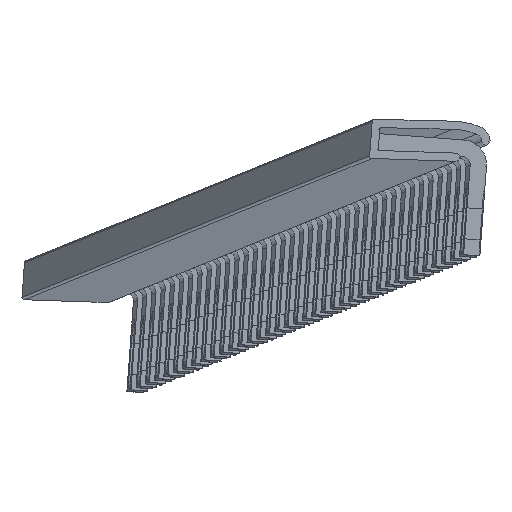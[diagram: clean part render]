
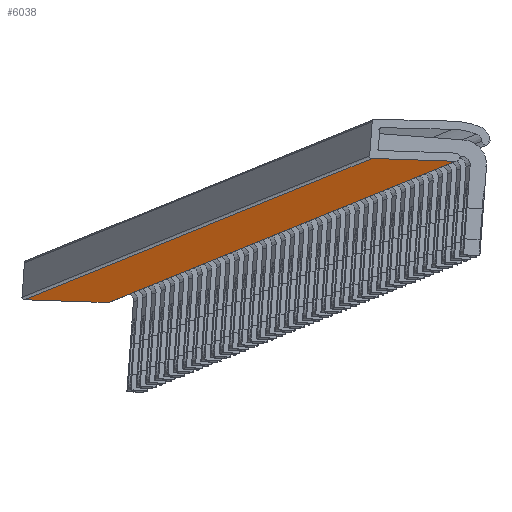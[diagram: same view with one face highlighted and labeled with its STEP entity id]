
A CAD part, top view. The second image highlights one B-rep face of the part: STEP entity #6038.
In plain terms, the highlighted planar face has unit normal (-0.033, -0.999, 0.017).
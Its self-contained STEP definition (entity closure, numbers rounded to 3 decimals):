
#1271 = DIRECTION ( 'NONE',  ( 0.999, -0.034, -0.041 ) ) ;
#1272 = VECTOR ( 'NONE', #1271, 1000. ) ;
#1273 = CARTESIAN_POINT ( 'NONE',  ( -159.832, -83.438, -25.062 ) ) ;
#1274 = LINE ( 'NONE', #1273, #1272 ) ;
#1280 = DIRECTION ( 'NONE',  ( -0.042, -0.015, -0.999 ) ) ;
#1281 = VECTOR ( 'NONE', #1280, 1000. ) ;
#1282 = CARTESIAN_POINT ( 'NONE',  ( -107.06, -68.273, 989.505 ) ) ;
#1283 = LINE ( 'NONE', #1282, #1281 ) ;
#1320 = DIRECTION ( 'NONE',  ( 0.999, -0.034, -0.041 ) ) ;
#1321 = VECTOR ( 'NONE', #1320, 1000. ) ;
#1322 = CARTESIAN_POINT ( 'NONE',  ( -117.302, -67.925, 989.929 ) ) ;
#1323 = LINE ( 'NONE', #1322, #1321 ) ;
#1331 = FACE_OUTER_BOUND ( 'NONE', #6030, .T. ) ;
#1332 = CARTESIAN_POINT ( 'NONE',  ( -159.832, -83.438, -25.062 ) ) ;
#1362 = CARTESIAN_POINT ( 'NONE',  ( -117.302, -67.925, 989.929 ) ) ;
#1363 = DIRECTION ( 'NONE',  ( -0.042, -0.015, -0.999 ) ) ;
#1364 = VECTOR ( 'NONE', #1363, 1000. ) ;
#1366 = CARTESIAN_POINT ( 'NONE',  ( -117.302, -67.925, 989.929 ) ) ;
#1367 = LINE ( 'NONE', #1366, #1364 ) ;
#1383 = CARTESIAN_POINT ( 'NONE',  ( -149.59, -83.786, -25.486 ) ) ;
#1422 = DIRECTION ( 'NONE',  ( -0.999, 0.034, 0.041 ) ) ;
#1423 = DIRECTION ( 'NONE',  ( 0.033, 0.999, -0.017 ) ) ;
#1424 = CARTESIAN_POINT ( 'NONE',  ( -117.302, -67.925, 989.929 ) ) ;
#1425 = AXIS2_PLACEMENT_3D ( 'NONE', #1424, #1423, #1422 ) ;
#1426 = PLANE ( 'NONE',  #1425 ) ;
#2606 = CARTESIAN_POINT ( 'NONE',  ( -107.06, -68.273, 989.505 ) ) ;
#5984 = VERTEX_POINT ( 'NONE', #2606 ) ;
#6004 = VERTEX_POINT ( 'NONE', #1383 ) ;
#6013 = EDGE_CURVE ( 'NONE', #5984, #6004, #1283, .T. ) ;
#6020 = ORIENTED_EDGE ( 'NONE', *, *, #6013, .F. ) ;
#6023 = ORIENTED_EDGE ( 'NONE', *, *, #6024, .T. ) ;
#6024 = EDGE_CURVE ( 'NONE', #6037, #6004, #1274, .T. ) ;
#6030 = EDGE_LOOP ( 'NONE', ( #6023, #6020, #6041, #6043 ) ) ;
#6037 = VERTEX_POINT ( 'NONE', #1332 ) ;
#6038 = ADVANCED_FACE ( 'NONE', ( #1331 ), #1426, .F. ) ;
#6041 = ORIENTED_EDGE ( 'NONE', *, *, #6042, .F. ) ;
#6042 = EDGE_CURVE ( 'NONE', #6049, #5984, #1323, .T. ) ;
#6043 = ORIENTED_EDGE ( 'NONE', *, *, #6047, .T. ) ;
#6047 = EDGE_CURVE ( 'NONE', #6049, #6037, #1367, .T. ) ;
#6049 = VERTEX_POINT ( 'NONE', #1362 ) ;
